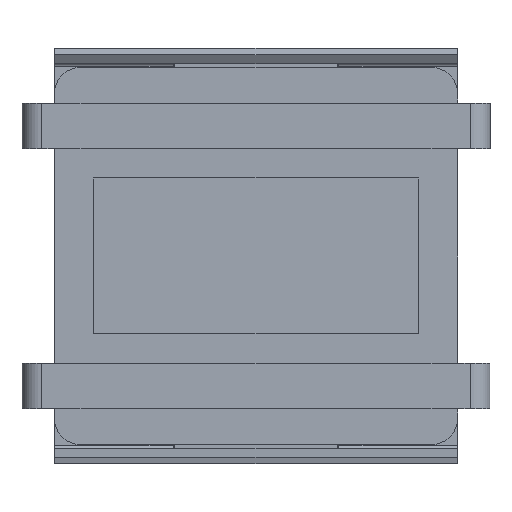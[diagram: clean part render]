
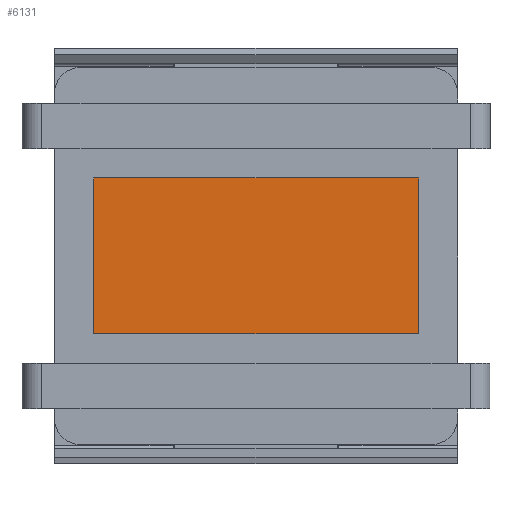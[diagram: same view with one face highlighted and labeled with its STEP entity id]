
A CAD part, front view. The second image highlights one B-rep face of the part: STEP entity #6131.
In plain terms, the highlighted planar face has unit normal (0, -1, 0).
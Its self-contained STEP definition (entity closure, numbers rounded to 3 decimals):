
#239 = CARTESIAN_POINT ( 'NONE',  ( -2.5, 0.2, -1.2 ) ) ;
#373 = VERTEX_POINT ( 'NONE', #5092 ) ;
#466 = CARTESIAN_POINT ( 'NONE',  ( -2.5, 0.2, -1.2 ) ) ;
#522 = CARTESIAN_POINT ( 'NONE',  ( 2.5, 0.2, -1.2 ) ) ;
#526 = LINE ( 'NONE', #3052, #2846 ) ;
#814 = CARTESIAN_POINT ( 'NONE',  ( -2.5, 0.2, -1.2 ) ) ;
#816 = CARTESIAN_POINT ( 'NONE',  ( -2.5, 0.2, 1.2 ) ) ;
#855 = DIRECTION ( 'NONE',  ( 0., 1., 0. ) ) ;
#1201 = CARTESIAN_POINT ( 'NONE',  ( 2.5, 0.2, -1.2 ) ) ;
#1382 = ORIENTED_EDGE ( 'NONE', *, *, #4792, .T. ) ;
#1499 = ORIENTED_EDGE ( 'NONE', *, *, #1947, .T. ) ;
#1751 = EDGE_CURVE ( 'NONE', #373, #4925, #5949, .T. ) ;
#1947 = EDGE_CURVE ( 'NONE', #3042, #5719, #2597, .T. ) ;
#2130 = VECTOR ( 'NONE', #4965, 1000. ) ;
#2225 = AXIS2_PLACEMENT_3D ( 'NONE', #816, #855, #2757 ) ;
#2597 = LINE ( 'NONE', #522, #5712 ) ;
#2757 = DIRECTION ( 'NONE',  ( -1., 0., 0. ) ) ;
#2846 = VECTOR ( 'NONE', #4827, 1000. ) ;
#3042 = VERTEX_POINT ( 'NONE', #1201 ) ;
#3052 = CARTESIAN_POINT ( 'NONE',  ( -2.5, 0.2, 1.2 ) ) ;
#3265 = DIRECTION ( 'NONE',  ( 0., 0., -1. ) ) ;
#3355 = FACE_OUTER_BOUND ( 'NONE', #3795, .T. ) ;
#3497 = VECTOR ( 'NONE', #3265, 1000. ) ;
#3532 = ORIENTED_EDGE ( 'NONE', *, *, #1751, .T. ) ;
#3795 = EDGE_LOOP ( 'NONE', ( #3532, #1382, #1499, #4334 ) ) ;
#4191 = CARTESIAN_POINT ( 'NONE',  ( 2.5, 0.2, 1.2 ) ) ;
#4334 = ORIENTED_EDGE ( 'NONE', *, *, #5721, .T. ) ;
#4792 = EDGE_CURVE ( 'NONE', #4925, #3042, #5373, .T. ) ;
#4827 = DIRECTION ( 'NONE',  ( -1., 0., 0. ) ) ;
#4894 = DIRECTION ( 'NONE',  ( 0., 0., 1. ) ) ;
#4925 = VERTEX_POINT ( 'NONE', #814 ) ;
#4965 = DIRECTION ( 'NONE',  ( 1., 0., 0. ) ) ;
#5092 = CARTESIAN_POINT ( 'NONE',  ( -2.5, 0.2, 1.2 ) ) ;
#5373 = LINE ( 'NONE', #239, #2130 ) ;
#5571 = PLANE ( 'NONE',  #2225 ) ;
#5712 = VECTOR ( 'NONE', #4894, 1000. ) ;
#5719 = VERTEX_POINT ( 'NONE', #4191 ) ;
#5721 = EDGE_CURVE ( 'NONE', #5719, #373, #526, .T. ) ;
#5949 = LINE ( 'NONE', #466, #3497 ) ;
#6131 = ADVANCED_FACE ( 'NONE', ( #3355 ), #5571, .F. ) ;
